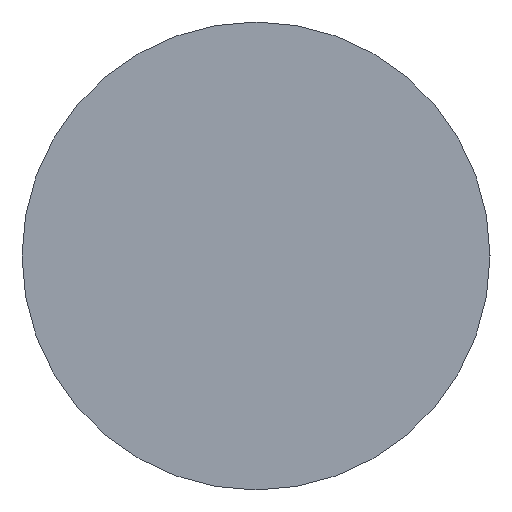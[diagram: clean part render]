
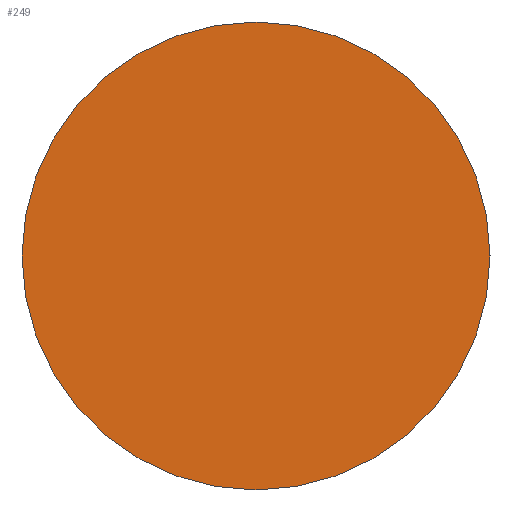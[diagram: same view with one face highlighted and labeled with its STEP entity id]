
A CAD part, left-side view. The second image highlights one B-rep face of the part: STEP entity #249.
In plain terms, the highlighted planar face has unit normal (-1, 0, 0).
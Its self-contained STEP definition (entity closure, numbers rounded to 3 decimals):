
#27 = CARTESIAN_POINT ( 'NONE',  ( 0., 0., 0. ) ) ;
#50 = CARTESIAN_POINT ( 'NONE',  ( 0., 0., 0. ) ) ;
#59 = CIRCLE ( 'NONE', #265, 8. ) ;
#60 = EDGE_LOOP ( 'NONE', ( #69, #191 ) ) ;
#69 = ORIENTED_EDGE ( 'NONE', *, *, #94, .F. ) ;
#72 = PLANE ( 'NONE',  #141 ) ;
#91 = DIRECTION ( 'NONE',  ( 0., -1., 0. ) ) ;
#94 = EDGE_CURVE ( 'NONE', #237, #102, #59, .T. ) ;
#102 = VERTEX_POINT ( 'NONE', #122 ) ;
#117 = CIRCLE ( 'NONE', #186, 8. ) ;
#122 = CARTESIAN_POINT ( 'NONE',  ( 0., -8., 0. ) ) ;
#128 = DIRECTION ( 'NONE',  ( 1., 0., 0. ) ) ;
#141 = AXIS2_PLACEMENT_3D ( 'NONE', #50, #240, #91 ) ;
#165 = EDGE_CURVE ( 'NONE', #102, #237, #117, .T. ) ;
#171 = DIRECTION ( 'NONE',  ( 1., 0., 0. ) ) ;
#173 = FACE_OUTER_BOUND ( 'NONE', #60, .T. ) ;
#175 = CARTESIAN_POINT ( 'NONE',  ( 0., 0., 0. ) ) ;
#186 = AXIS2_PLACEMENT_3D ( 'NONE', #27, #128, #254 ) ;
#191 = ORIENTED_EDGE ( 'NONE', *, *, #165, .F. ) ;
#211 = DIRECTION ( 'NONE',  ( 0., 1., 0. ) ) ;
#237 = VERTEX_POINT ( 'NONE', #260 ) ;
#240 = DIRECTION ( 'NONE',  ( -1., 0., 0. ) ) ;
#249 = ADVANCED_FACE ( 'NONE', ( #173 ), #72, .T. ) ;
#254 = DIRECTION ( 'NONE',  ( 0., 1., 0. ) ) ;
#260 = CARTESIAN_POINT ( 'NONE',  ( 0., 8., 0. ) ) ;
#265 = AXIS2_PLACEMENT_3D ( 'NONE', #175, #171, #211 ) ;
